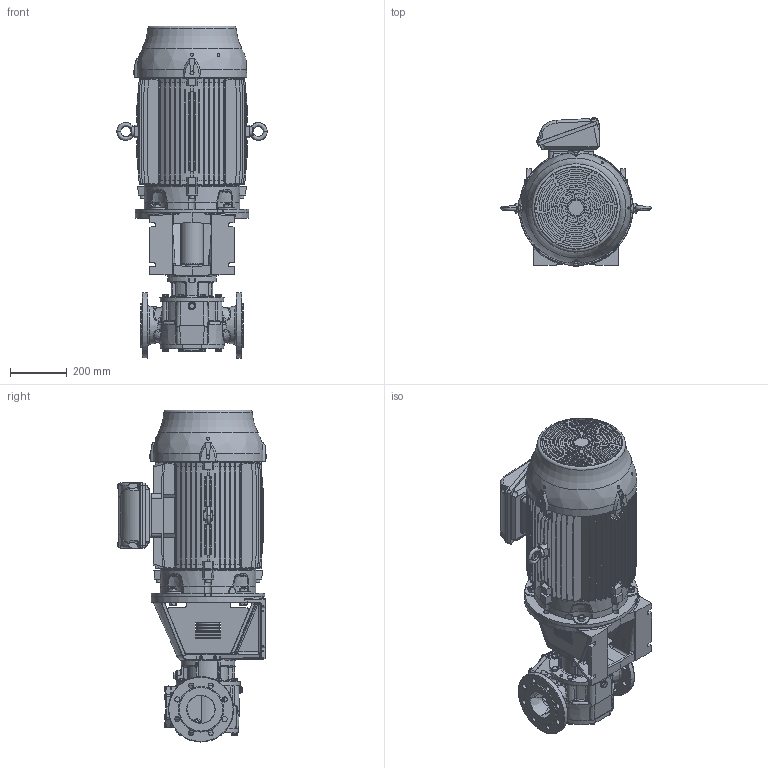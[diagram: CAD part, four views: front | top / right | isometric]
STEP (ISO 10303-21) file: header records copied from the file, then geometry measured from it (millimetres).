
FILE_DESCRIPTION(/* description */ (''),/* implementation_level */ '2;1');
FILE_NAME(/* name */ 'C:\V\JPP\Designs\GEAR PUMPS\PRODUCT ENGINEERING\EUROPE\TG BLOC\TG BLOC_86-100_G2_O_NRV-_200L-STEP.stp',/* time_stamp */ '2021-03-19T14:04:17+01:00',/* author */ ('A77THR'),/* organization */ (''),/* preprocessor_version */ 'ST-DEVELOPER v18.1',/* originating_system */ 'Autodesk Inventor 2020',/* authorisation */ '');
FILE_SCHEMA (('AUTOMOTIVE_DESIGN { 1 0 10303 214 3 1 1 }'));
Length unit declared in the file: millimetre
Products named in the file (1): TG BLOC_86-100_G2_O_NRV-_200L
Bounding box: 527.98 x 525.98 x 1166.26 mm (x, y, z)
Volume: 83368327.9 mm3; surface area: 3475747.7 mm2
Topology: 1 solids, 1 shells, 4443 faces, 11860 edges, 7561 vertices
Faces by surface type: plane 1730, cylinder 1068, bspline 984, cone 484, torus 131, sphere 46
Full cylindrical faces by diameter (mm): 4 x1, 4.5 x4, 4.917 x4, 6.3 x1, 6.647 x1, 7.444 x3, 8 x3, 9 x2, 9.188 x8, 10 x16, 10.106 x7, 10.2 x2, 11 x8, 11.053 x4, 11.445 x2, 11.6 x3, 12 x4, 13 x1, 13.157 x2, 13.2 x2, 14 x8, 15.011 x2, 15.4 x8, 17.2 x20, 18 x23, 19 x6, 21.939 x2, 22 x4, 23 x2, 25.9 x2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
Entity records: 198169 total; most frequent: CARTESIAN_POINT 90359, ORIENTED_EDGE 23514, DIRECTION 19369, EDGE_CURVE 11757, VERTEX_POINT 7561, AXIS2_PLACEMENT_3D 7498, EDGE_LOOP 4816, FACE_OUTER_BOUND 4443
